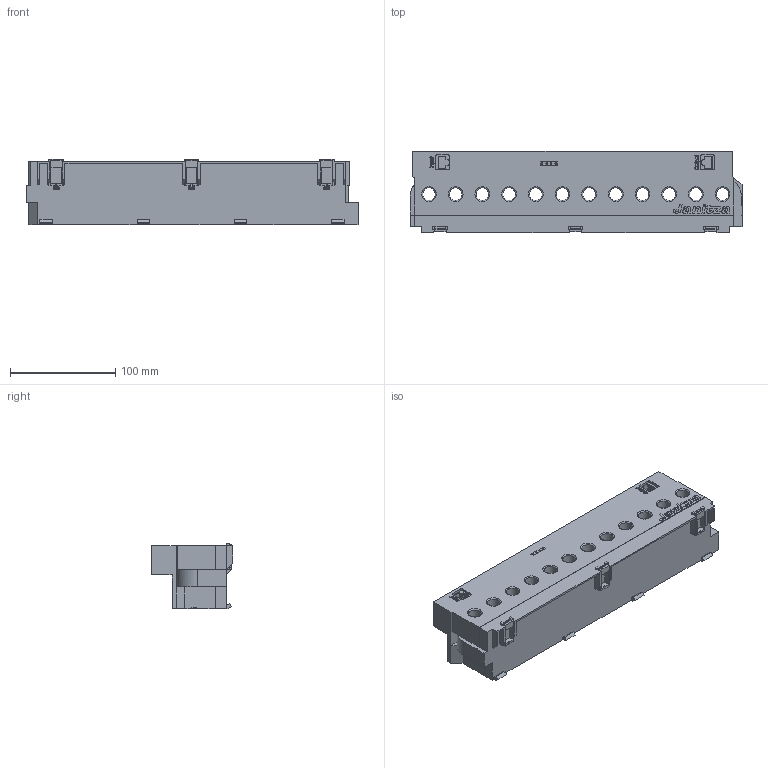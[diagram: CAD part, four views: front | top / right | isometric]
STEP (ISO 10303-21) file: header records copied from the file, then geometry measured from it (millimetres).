
FILE_DESCRIPTION(/* description */ ('STEP AP214'),/* implementation_level */ '2;1');
FILE_NAME(/* name */ 'K:\Janitza\3D-Daten\800-CT12-SVD-US\Doku Daten\800-CT12-SVD-US.stp',/* time_stamp */ '2025-02-21T12:05:18+01:00',/* author */ ('matth'),/* organization */ (''),/* preprocessor_version */ 'ST-DEVELOPER v18.1',/* originating_system */ 'Autodesk Inventor 2021',/* authorisation */ '');
FILE_SCHEMA (('AUTOMOTIVE_DESIGN { 1 0 10303 214 3 1 1 }'));
Length unit declared in the file: millimetre
Products named in the file (5): 800-CT12-SVD-US; 8000-LOGO; 800-CT12-SVD-US_1; Raste; RJ45 13x14
Assembly tree (7 placements, depth 2):
  800-CT12-SVD-US
    Raste  x3
    8000-LOGO
    800-CT12-SVD-US_1
    RJ45 13x14  x2
Bounding box: 316 x 77.5 x 62 mm (x, y, z)
Volume: 1024863.5 mm3; surface area: 132429.1 mm2
Topology: 16 solids, 16 shells, 920 faces, 2491 edges, 1665 vertices
Faces by surface type: plane 683, bspline 177, cylinder 36, torus 24
Full cylindrical faces by diameter (mm): 1.5 x4, 12.1 x13, 14 x1
Entity records: 33246 total; most frequent: CARTESIAN_POINT 13215, ORIENTED_EDGE 4386, DIRECTION 3296, EDGE_CURVE 2193, LINE 1664, VECTOR 1664, VERTEX_POINT 1469, EDGE_LOOP 900
